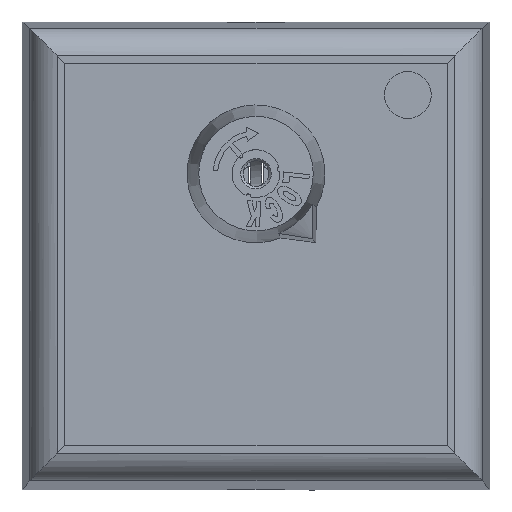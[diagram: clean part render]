
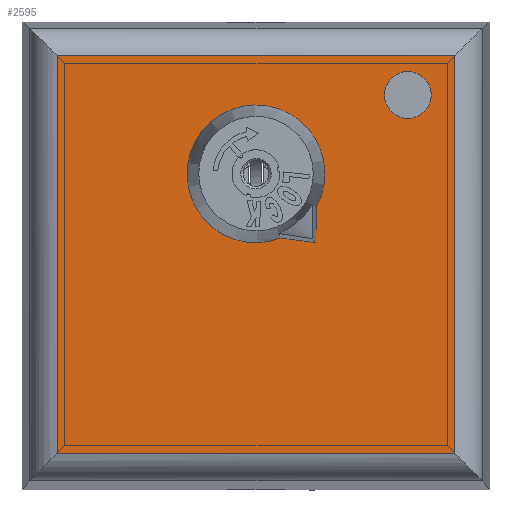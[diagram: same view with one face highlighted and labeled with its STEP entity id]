
A CAD part, top view. The second image highlights one B-rep face of the part: STEP entity #2595.
In plain terms, the highlighted planar face has unit normal (0, 0, 1).
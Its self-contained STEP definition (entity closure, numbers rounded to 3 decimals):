
#2425=CARTESIAN_POINT('',(5.154,4.028,68.339));
#2426=VERTEX_POINT('',#2425);
#2454=CARTESIAN_POINT('',(5.127,1.02,68.339));
#2455=VERTEX_POINT('',#2454);
#2462=CARTESIAN_POINT('',(5.154,4.028,68.339));
#2463=DIRECTION('',(-0.009,-1.,0.));
#2464=VECTOR('',#2463,3.009);
#2465=LINE('',#2462,#2464);
#2466=EDGE_CURVE('',#2426,#2455,#2465,.T.);
#2476=CARTESIAN_POINT('',(2.143,1.403,68.339));
#2477=VERTEX_POINT('',#2476);
#2493=CARTESIAN_POINT('',(5.127,1.02,68.339));
#2494=DIRECTION('',(-0.992,0.127,0.));
#2495=VECTOR('',#2494,3.009);
#2496=LINE('',#2493,#2495);
#2497=EDGE_CURVE('',#2455,#2477,#2496,.T.);
#2524=CARTESIAN_POINT('',(0.,6.9,68.339));
#2525=DIRECTION('',(0.,0.,-1.));
#2526=DIRECTION('',(0.657,-0.754,0.));
#2527=AXIS2_PLACEMENT_3D('',#2524,#2525,#2526);
#2528=CIRCLE('',#2527,5.9);
#2529=EDGE_CURVE('',#2477,#2426,#2528,.T.);
#2540=CARTESIAN_POINT('',(0.,0.,68.339));
#2541=DIRECTION('',(0.,0.,1.0));
#2542=DIRECTION('',(-1.0,0.0,0.0));
#2543=AXIS2_PLACEMENT_3D('',#2540,#2541,#2542);
#2544=PLANE('',#2543);
#2545=CARTESIAN_POINT('',(-17.0,-17.,68.339));
#2546=VERTEX_POINT('',#2545);
#2547=CARTESIAN_POINT('',(-17.0,17.,68.339));
#2548=VERTEX_POINT('',#2547);
#2549=CARTESIAN_POINT('',(-17.0,-17.,68.339));
#2550=DIRECTION('',(0.0,1.0,0.));
#2551=VECTOR('',#2550,34.);
#2552=LINE('',#2549,#2551);
#2553=EDGE_CURVE('',#2546,#2548,#2552,.T.);
#2554=ORIENTED_EDGE('',*,*,#2553,.F.);
#2555=CARTESIAN_POINT('',(17.0,-17.,68.339));
#2556=VERTEX_POINT('',#2555);
#2557=CARTESIAN_POINT('',(17.0,-17.,68.339));
#2558=DIRECTION('',(-1.0,0.0,0.0));
#2559=VECTOR('',#2558,34.0);
#2560=LINE('',#2557,#2559);
#2561=EDGE_CURVE('',#2556,#2546,#2560,.T.);
#2562=ORIENTED_EDGE('',*,*,#2561,.F.);
#2563=CARTESIAN_POINT('',(17.0,17.,68.339));
#2564=VERTEX_POINT('',#2563);
#2565=CARTESIAN_POINT('',(17.0,17.,68.339));
#2566=DIRECTION('',(0.,-1.0,0.));
#2567=VECTOR('',#2566,34.);
#2568=LINE('',#2565,#2567);
#2569=EDGE_CURVE('',#2564,#2556,#2568,.T.);
#2570=ORIENTED_EDGE('',*,*,#2569,.F.);
#2571=CARTESIAN_POINT('',(-17.0,17.,68.339));
#2572=DIRECTION('',(1.0,0.0,0.0));
#2573=VECTOR('',#2572,34.0);
#2574=LINE('',#2571,#2573);
#2575=EDGE_CURVE('',#2548,#2564,#2574,.T.);
#2576=ORIENTED_EDGE('',*,*,#2575,.F.);
#2577=EDGE_LOOP('',(#2554,#2562,#2570,#2576));
#2578=FACE_OUTER_BOUND('',#2577,.T.);
#2579=CARTESIAN_POINT('',(11.0,13.65,68.339));
#2580=VERTEX_POINT('',#2579);
#2581=CARTESIAN_POINT('',(13.0,13.65,68.339));
#2582=DIRECTION('',(0.0,0.,-1.0));
#2583=DIRECTION('',(-1.0,0.0,0.0));
#2584=AXIS2_PLACEMENT_3D('',#2581,#2582,#2583);
#2585=CIRCLE('',#2584,2.0);
#2586=EDGE_CURVE('',#2580,#2580,#2585,.T.);
#2587=ORIENTED_EDGE('',*,*,#2586,.T.);
#2588=EDGE_LOOP('',(#2587));
#2589=FACE_BOUND('',#2588,.T.);
#2590=ORIENTED_EDGE('',*,*,#2466,.T.);
#2591=ORIENTED_EDGE('',*,*,#2497,.T.);
#2592=ORIENTED_EDGE('',*,*,#2529,.T.);
#2593=EDGE_LOOP('',(#2590,#2591,#2592));
#2594=FACE_BOUND('',#2593,.T.);
#2595=ADVANCED_FACE('',(#2578,#2589,#2594),#2544,.T.);
